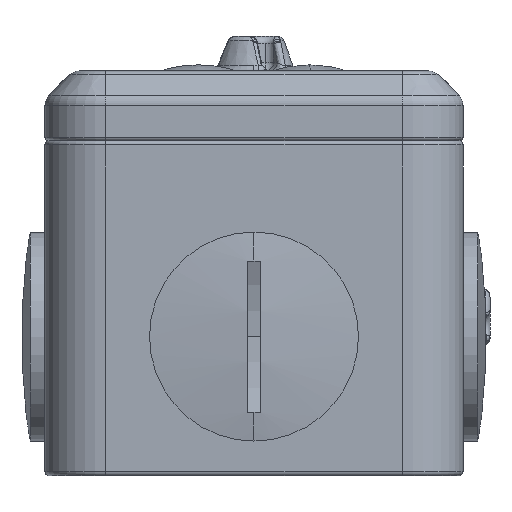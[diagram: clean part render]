
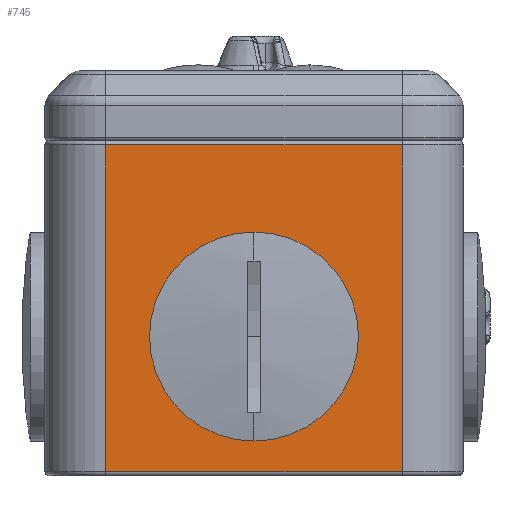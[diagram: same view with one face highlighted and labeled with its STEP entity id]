
A CAD part, front view. The second image highlights one B-rep face of the part: STEP entity #745.
In plain terms, the highlighted planar face has unit normal (0, -1, 0).
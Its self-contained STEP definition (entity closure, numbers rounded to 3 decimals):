
#716 = LINE ( 'NONE', #56609, #97640 ) ;
#745 = ADVANCED_FACE ( 'NONE', ( #82596, #3616 ), #35687, .F. ) ;
#1772 = EDGE_CURVE ( 'NONE', #90805, #6435, #716, .T. ) ;
#3256 = LINE ( 'NONE', #19248, #31977 ) ;
#3616 = FACE_OUTER_BOUND ( 'NONE', #32803, .T. ) ;
#4749 = DIRECTION ( 'NONE',  ( 0., 0., 1. ) ) ;
#5272 = EDGE_LOOP ( 'NONE', ( #48151, #26131 ) ) ;
#5951 = ORIENTED_EDGE ( 'NONE', *, *, #56532, .T. ) ;
#6435 = VERTEX_POINT ( 'NONE', #46726 ) ;
#7908 = CARTESIAN_POINT ( 'NONE',  ( -17., -141., 38.5 ) ) ;
#8862 = VERTEX_POINT ( 'NONE', #35465 ) ;
#9517 = CARTESIAN_POINT ( 'NONE',  ( -17., -141., 38. ) ) ;
#12545 = LINE ( 'NONE', #9517, #50875 ) ;
#14359 = AXIS2_PLACEMENT_3D ( 'NONE', #58473, #89186, #43413 ) ;
#16583 = EDGE_CURVE ( 'NONE', #6435, #55623, #12545, .T. ) ;
#17034 = CARTESIAN_POINT ( 'NONE',  ( -17., -141., 38. ) ) ;
#18361 = CARTESIAN_POINT ( 'NONE',  ( 0., -141., 5.2 ) ) ;
#19248 = CARTESIAN_POINT ( 'NONE',  ( -24., -141., 0.5 ) ) ;
#19751 = DIRECTION ( 'NONE',  ( 0., 0., 1. ) ) ;
#23253 = DIRECTION ( 'NONE',  ( 0., 0., -1. ) ) ;
#26131 = ORIENTED_EDGE ( 'NONE', *, *, #84477, .T. ) ;
#26850 = CARTESIAN_POINT ( 'NONE',  ( 17., -141., 0.5 ) ) ;
#27852 = ORIENTED_EDGE ( 'NONE', *, *, #16583, .T. ) ;
#28135 = AXIS2_PLACEMENT_3D ( 'NONE', #75168, #29299, #82813 ) ;
#29299 = DIRECTION ( 'NONE',  ( 0., 1., 0. ) ) ;
#31977 = VECTOR ( 'NONE', #95545, 1000. ) ;
#32396 = CARTESIAN_POINT ( 'NONE',  ( 0., -141., 26.8 ) ) ;
#32803 = EDGE_LOOP ( 'NONE', ( #5951, #84433, #42029, #27852 ) ) ;
#33334 = VECTOR ( 'NONE', #23253, 1000. ) ;
#35465 = CARTESIAN_POINT ( 'NONE',  ( -17., -141., 0.5 ) ) ;
#35474 = EDGE_CURVE ( 'NONE', #72040, #73905, #49928, .T. ) ;
#35687 = PLANE ( 'NONE',  #14359 ) ;
#42029 = ORIENTED_EDGE ( 'NONE', *, *, #1772, .T. ) ;
#43413 = DIRECTION ( 'NONE',  ( 0., 0., 1. ) ) ;
#46726 = CARTESIAN_POINT ( 'NONE',  ( 17., -141., 38. ) ) ;
#48151 = ORIENTED_EDGE ( 'NONE', *, *, #35474, .T. ) ;
#49928 = CIRCLE ( 'NONE', #84647, 10.8 ) ;
#50626 = DIRECTION ( 'NONE',  ( 0., 1., 0. ) ) ;
#50875 = VECTOR ( 'NONE', #63094, 1000. ) ;
#53728 = LINE ( 'NONE', #7908, #33334 ) ;
#55623 = VERTEX_POINT ( 'NONE', #17034 ) ;
#56532 = EDGE_CURVE ( 'NONE', #55623, #8862, #53728, .T. ) ;
#56609 = CARTESIAN_POINT ( 'NONE',  ( 17., -141., 38.5 ) ) ;
#58473 = CARTESIAN_POINT ( 'NONE',  ( -24., -141., 38.5 ) ) ;
#61892 = EDGE_CURVE ( 'NONE', #8862, #90805, #3256, .T. ) ;
#63094 = DIRECTION ( 'NONE',  ( -1., 0., 0. ) ) ;
#70061 = CIRCLE ( 'NONE', #28135, 10.8 ) ;
#72040 = VERTEX_POINT ( 'NONE', #18361 ) ;
#73905 = VERTEX_POINT ( 'NONE', #32396 ) ;
#75168 = CARTESIAN_POINT ( 'NONE',  ( 0., -141., 16. ) ) ;
#82596 = FACE_BOUND ( 'NONE', #5272, .T. ) ;
#82813 = DIRECTION ( 'NONE',  ( 0., 0., 1. ) ) ;
#84433 = ORIENTED_EDGE ( 'NONE', *, *, #61892, .T. ) ;
#84477 = EDGE_CURVE ( 'NONE', #73905, #72040, #70061, .T. ) ;
#84647 = AXIS2_PLACEMENT_3D ( 'NONE', #96421, #50626, #4749 ) ;
#89186 = DIRECTION ( 'NONE',  ( 0., 1., 0. ) ) ;
#90805 = VERTEX_POINT ( 'NONE', #26850 ) ;
#95545 = DIRECTION ( 'NONE',  ( 1., 0., 0. ) ) ;
#96421 = CARTESIAN_POINT ( 'NONE',  ( 0., -141., 16. ) ) ;
#97640 = VECTOR ( 'NONE', #19751, 1000. ) ;
